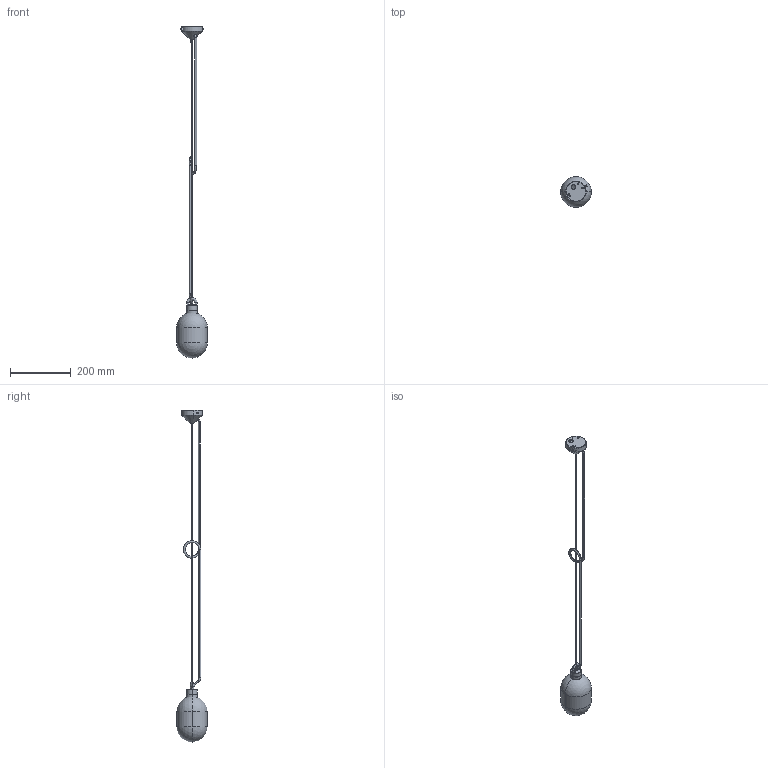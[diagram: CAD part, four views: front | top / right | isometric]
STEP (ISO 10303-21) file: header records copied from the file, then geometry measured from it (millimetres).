
FILE_DESCRIPTION (( 'STEP AP214' ), '1' );
FILE_NAME ('Capsa_3D_PICCOLA.STEP', '2026-05-04T13:11:30', ( '' ), ( '' ), 'SwSTEP 2.0', 'SolidWorks 2025', '' );
FILE_SCHEMA (( 'AUTOMOTIVE_DESIGN' ));
Length unit declared in the file: millimetre
Products named in the file (3): Capsa_STRUTTURA_ORIGINALE; Capsa_3D_PICCOLA; CAPSA_Lamp_3D_Senza Onice
Assembly tree (2 placements, depth 2):
  Capsa_3D_PICCOLA
    Capsa_STRUTTURA_ORIGINALE
    CAPSA_Lamp_3D_Senza Onice
Bounding box: 100 x 100 x 1089.68 mm (x, y, z)
Volume: 285298.8 mm3; surface area: 145299.7 mm2
Topology: 12 solids, 12 shells, 489 faces, 1303 edges, 850 vertices
Faces by surface type: plane 272, cylinder 169, bspline 32, sphere 8, cone 8
Entity records: 19851 total; most frequent: CARTESIAN_POINT 7560, ORIENTED_EDGE 2566, DIRECTION 2445, EDGE_CURVE 1283, VERTEX_POINT 842, AXIS2_PLACEMENT_3D 826, LINE 793, VECTOR 793
